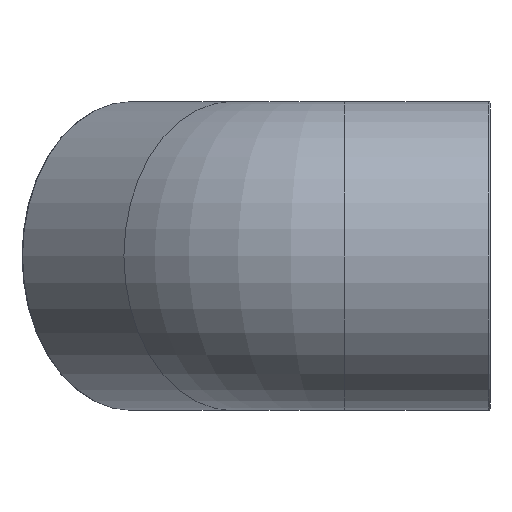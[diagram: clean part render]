
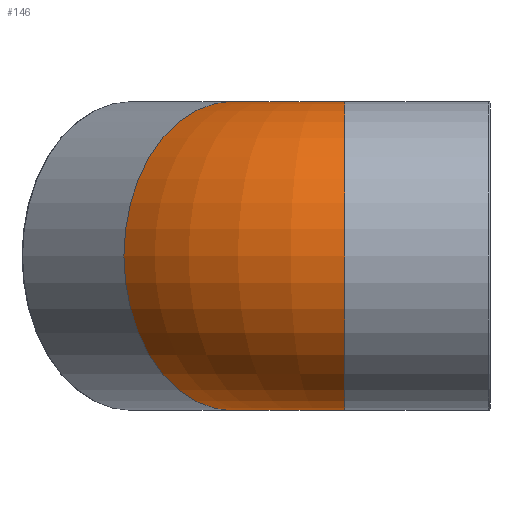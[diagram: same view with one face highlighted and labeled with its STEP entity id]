
A CAD part, left-side view. The second image highlights one B-rep face of the part: STEP entity #146.
In plain terms, the highlighted toroidal (fillet/blend) face has major radius 45 mm and minor radius 44 mm.
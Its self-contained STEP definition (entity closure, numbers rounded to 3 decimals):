
#36=FACE_BOUND('',#72,.T.);
#48=FACE_OUTER_BOUND('',#71,.T.);
#71=EDGE_LOOP('',(#129));
#72=EDGE_LOOP('',(#130));
#75=CIRCLE('',#153,44.);
#79=CIRCLE('',#160,44.);
#85=VERTEX_POINT('',#224);
#89=VERTEX_POINT('',#235);
#97=EDGE_CURVE('',#85,#85,#75,.T.);
#101=EDGE_CURVE('',#89,#89,#79,.T.);
#129=ORIENTED_EDGE('',*,*,#101,.F.);
#130=ORIENTED_EDGE('',*,*,#97,.T.);
#134=TOROIDAL_SURFACE('',#170,45.,44.);
#146=ADVANCED_FACE('',(#48,#36),#134,.T.);
#153=AXIS2_PLACEMENT_3D('',#225,#181,#182);
#160=AXIS2_PLACEMENT_3D('',#236,#195,#196);
#170=AXIS2_PLACEMENT_3D('',#383,#215,#216);
#181=DIRECTION('center_axis',(0.,1.,0.));
#182=DIRECTION('ref_axis',(1.,0.,0.));
#195=DIRECTION('center_axis',(0.707,0.707,0.));
#196=DIRECTION('ref_axis',(0.707,-0.707,0.));
#215=DIRECTION('center_axis',(0.,0.,-1.));
#216=DIRECTION('ref_axis',(-1.,0.,0.));
#224=CARTESIAN_POINT('',(-44.,41.36,0.));
#225=CARTESIAN_POINT('Origin',(0.,41.36,0.));
#235=CARTESIAN_POINT('',(-17.933,104.293,0.));
#236=CARTESIAN_POINT('Origin',(13.18,73.18,0.));
#383=CARTESIAN_POINT('Origin',(45.,41.36,0.));
